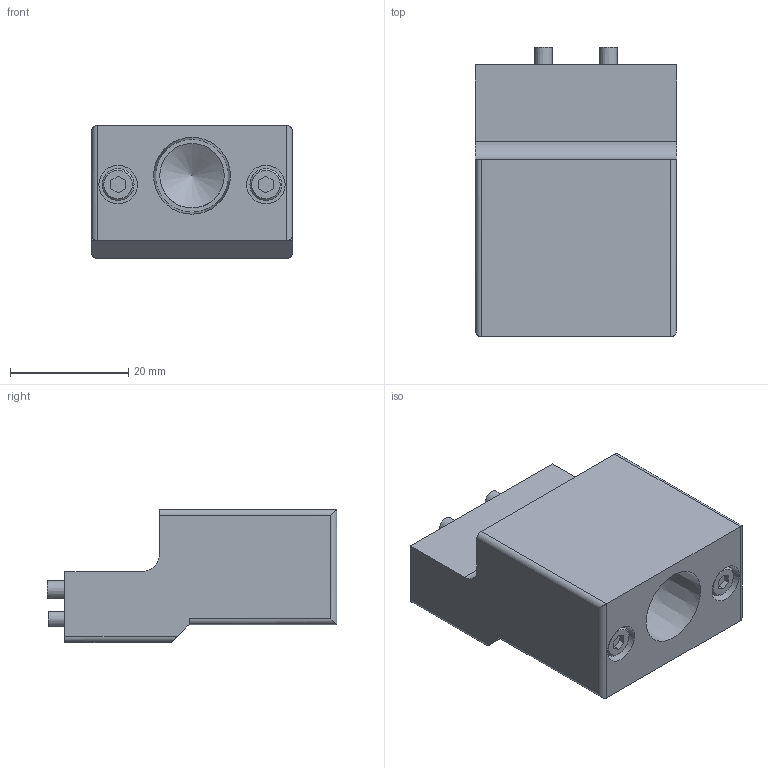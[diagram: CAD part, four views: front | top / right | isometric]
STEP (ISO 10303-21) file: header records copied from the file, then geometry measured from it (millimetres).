
FILE_DESCRIPTION(('STEP AP214'),'1');
FILE_NAME('KHG-12RS-EP81_ver1.stp','2026-05-18T00:19:47',(' '),(' '),'Spatial InterOp 3D',' ',' ');
FILE_SCHEMA(('AUTOMOTIVE_DESIGN { 1 0 10303 214 1 1 1 1 }'));
Length unit declared in the file: millimetre
Products named in the file (1): KHG-12RS-EP81_ver1
Bounding box: 34 x 49 x 22.5 mm (x, y, z)
Volume: 23740.1 mm3; surface area: 9327.4 mm2
Topology: 1 solids, 9 shells, 112 faces, 226 edges, 148 vertices
Faces by surface type: plane 69, cylinder 33, cone 10
Full cylindrical faces by diameter (mm): 2.5 x6, 3 x4, 3.5 x4, 5.41 x4, 6.5 x4, 9 x1, 10.9 x1
Entity records: 3645 total; most frequent: CARTESIAN_POINT 516, DIRECTION 477, ORIENTED_EDGE 362, AXIS2_PLACEMENT_3D 184, EDGE_CURVE 181, EDGE_LOOP 169, VERTEX_POINT 139, FACE_OUTER_BOUND 136
